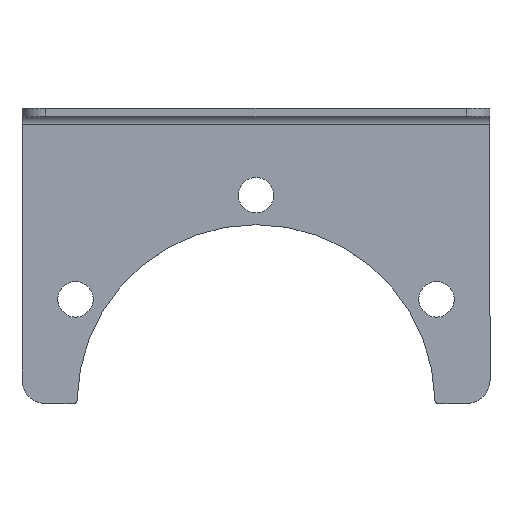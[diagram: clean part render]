
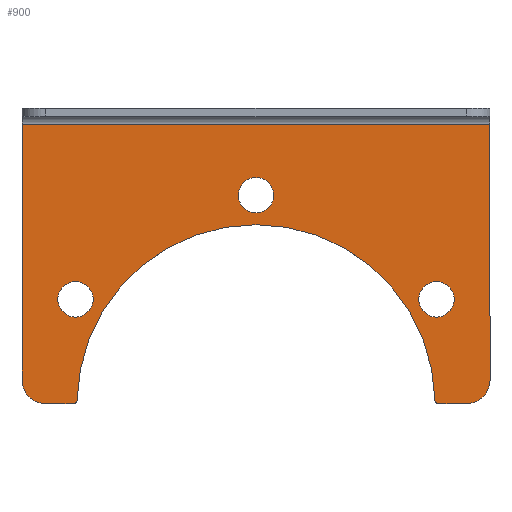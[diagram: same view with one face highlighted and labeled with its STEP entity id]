
A CAD part, top view. The second image highlights one B-rep face of the part: STEP entity #900.
In plain terms, the highlighted planar face has unit normal (0, 0, 1).
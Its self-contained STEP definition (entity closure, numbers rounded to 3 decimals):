
#499=CARTESIAN_POINT('',(-29.,-51.0,2.0));
#500=VERTEX_POINT('',#499);
#507=CARTESIAN_POINT('',(-29.,14.,2.0));
#508=VERTEX_POINT('',#507);
#509=CARTESIAN_POINT('',(-29.,-51.0,2.0));
#510=DIRECTION('',(0.0,1.0,0.0));
#511=VECTOR('',#510,65.);
#512=LINE('',#509,#511);
#513=EDGE_CURVE('',#500,#508,#512,.T.);
#578=CARTESIAN_POINT('',(90.,14.,2.0));
#579=VERTEX_POINT('',#578);
#587=CARTESIAN_POINT('',(90.0,-51.0,2.0));
#588=VERTEX_POINT('',#587);
#589=CARTESIAN_POINT('',(90.,14.,2.0));
#590=DIRECTION('',(0.0,-1.0,0.0));
#591=VECTOR('',#590,65.);
#592=LINE('',#589,#591);
#593=EDGE_CURVE('',#579,#588,#592,.T.);
#629=CARTESIAN_POINT('',(90.,14.,2.0));
#630=DIRECTION('',(-1.0,0.0,0.0));
#631=VECTOR('',#630,119.);
#632=LINE('',#629,#631);
#633=EDGE_CURVE('',#579,#508,#632,.T.);
#765=CARTESIAN_POINT('',(76.989,-57.0,2.0));
#766=VERTEX_POINT('',#765);
#773=CARTESIAN_POINT('',(75.989,-56.022,2.0));
#774=VERTEX_POINT('',#773);
#775=CARTESIAN_POINT('',(76.989,-56.,2.0));
#776=DIRECTION('',(0.0,0.0,-1.));
#777=DIRECTION('',(-0.699,-0.715,0.0));
#778=AXIS2_PLACEMENT_3D('',#775,#776,#777);
#779=CIRCLE('',#778,1.);
#780=EDGE_CURVE('',#766,#774,#779,.T.);
#797=CARTESIAN_POINT('',(-14.989,-56.022,2.0));
#798=VERTEX_POINT('',#797);
#799=CARTESIAN_POINT('',(30.5,-57.,2.0));
#800=DIRECTION('',(0.0,0.0,-1.0));
#801=DIRECTION('',(-1.0,0.0,0.0));
#802=AXIS2_PLACEMENT_3D('',#799,#800,#801);
#803=CIRCLE('',#802,45.5);
#804=EDGE_CURVE('',#798,#774,#803,.T.);
#816=CARTESIAN_POINT('',(30.5,-18.978,2.0));
#817=DIRECTION('',(0.0,0.0,1.0));
#818=DIRECTION('',(1.0,0.0,0.0));
#819=AXIS2_PLACEMENT_3D('',#816,#817,#818);
#820=PLANE('',#819);
#821=ORIENTED_EDGE('',*,*,#633,.T.);
#822=ORIENTED_EDGE('',*,*,#513,.F.);
#823=CARTESIAN_POINT('',(-23.,-57.,2.0));
#824=VERTEX_POINT('',#823);
#825=CARTESIAN_POINT('',(-23.0,-51.0,2.0));
#826=DIRECTION('',(0.0,0.0,-1.0));
#827=DIRECTION('',(-1.0,0.0,0.0));
#828=AXIS2_PLACEMENT_3D('',#825,#826,#827);
#829=CIRCLE('',#828,6.);
#830=EDGE_CURVE('',#824,#500,#829,.T.);
#831=ORIENTED_EDGE('',*,*,#830,.F.);
#832=CARTESIAN_POINT('',(-15.989,-57.,2.0));
#833=VERTEX_POINT('',#832);
#834=CARTESIAN_POINT('',(-15.989,-57.,2.0));
#835=DIRECTION('',(-1.0,0.0,0.0));
#836=VECTOR('',#835,7.011);
#837=LINE('',#834,#836);
#838=EDGE_CURVE('',#833,#824,#837,.T.);
#839=ORIENTED_EDGE('',*,*,#838,.F.);
#840=CARTESIAN_POINT('',(-15.989,-56.,2.0));
#841=DIRECTION('',(0.0,0.0,-1.));
#842=DIRECTION('',(0.699,-0.715,0.0));
#843=AXIS2_PLACEMENT_3D('',#840,#841,#842);
#844=CIRCLE('',#843,1.0);
#845=EDGE_CURVE('',#798,#833,#844,.T.);
#846=ORIENTED_EDGE('',*,*,#845,.F.);
#847=ORIENTED_EDGE('',*,*,#804,.T.);
#848=ORIENTED_EDGE('',*,*,#780,.F.);
#849=CARTESIAN_POINT('',(84.,-57.0,2.0));
#850=VERTEX_POINT('',#849);
#851=CARTESIAN_POINT('',(84.,-57.0,2.0));
#852=DIRECTION('',(-1.0,0.0,0.0));
#853=VECTOR('',#852,7.011);
#854=LINE('',#851,#853);
#855=EDGE_CURVE('',#850,#766,#854,.T.);
#856=ORIENTED_EDGE('',*,*,#855,.F.);
#857=CARTESIAN_POINT('',(84.,-51.,2.0));
#858=DIRECTION('',(0.0,0.0,-1.0));
#859=DIRECTION('',(0.0,-1.0,0.0));
#860=AXIS2_PLACEMENT_3D('',#857,#858,#859);
#861=CIRCLE('',#860,6.);
#862=EDGE_CURVE('',#588,#850,#861,.T.);
#863=ORIENTED_EDGE('',*,*,#862,.F.);
#864=ORIENTED_EDGE('',*,*,#593,.F.);
#865=EDGE_LOOP('',(#821,#822,#831,#839,#846,#847,#848,#856,#863,#864));
#866=FACE_OUTER_BOUND('',#865,.T.);
#867=CARTESIAN_POINT('',(35.,-4.,2.0));
#868=VERTEX_POINT('',#867);
#869=CARTESIAN_POINT('',(30.5,-4.,2.0));
#870=DIRECTION('',(0.0,0.0,-1.0));
#871=DIRECTION('',(-1.0,0.0,0.0));
#872=AXIS2_PLACEMENT_3D('',#869,#870,#871);
#873=CIRCLE('',#872,4.5);
#874=EDGE_CURVE('',#868,#868,#873,.T.);
#875=ORIENTED_EDGE('',*,*,#874,.T.);
#876=EDGE_LOOP('',(#875));
#877=FACE_BOUND('',#876,.T.);
#878=CARTESIAN_POINT('',(80.899,-30.5,2.0));
#879=VERTEX_POINT('',#878);
#880=CARTESIAN_POINT('',(76.399,-30.5,2.0));
#881=DIRECTION('',(0.0,0.0,-1.0));
#882=DIRECTION('',(-1.0,0.0,0.0));
#883=AXIS2_PLACEMENT_3D('',#880,#881,#882);
#884=CIRCLE('',#883,4.5);
#885=EDGE_CURVE('',#879,#879,#884,.T.);
#886=ORIENTED_EDGE('',*,*,#885,.T.);
#887=EDGE_LOOP('',(#886));
#888=FACE_BOUND('',#887,.T.);
#889=CARTESIAN_POINT('',(-10.899,-30.5,2.0));
#890=VERTEX_POINT('',#889);
#891=CARTESIAN_POINT('',(-15.399,-30.5,2.0));
#892=DIRECTION('',(0.0,0.0,-1.0));
#893=DIRECTION('',(-1.0,0.0,0.0));
#894=AXIS2_PLACEMENT_3D('',#891,#892,#893);
#895=CIRCLE('',#894,4.5);
#896=EDGE_CURVE('',#890,#890,#895,.T.);
#897=ORIENTED_EDGE('',*,*,#896,.T.);
#898=EDGE_LOOP('',(#897));
#899=FACE_BOUND('',#898,.T.);
#900=ADVANCED_FACE('',(#866,#877,#888,#899),#820,.T.);
